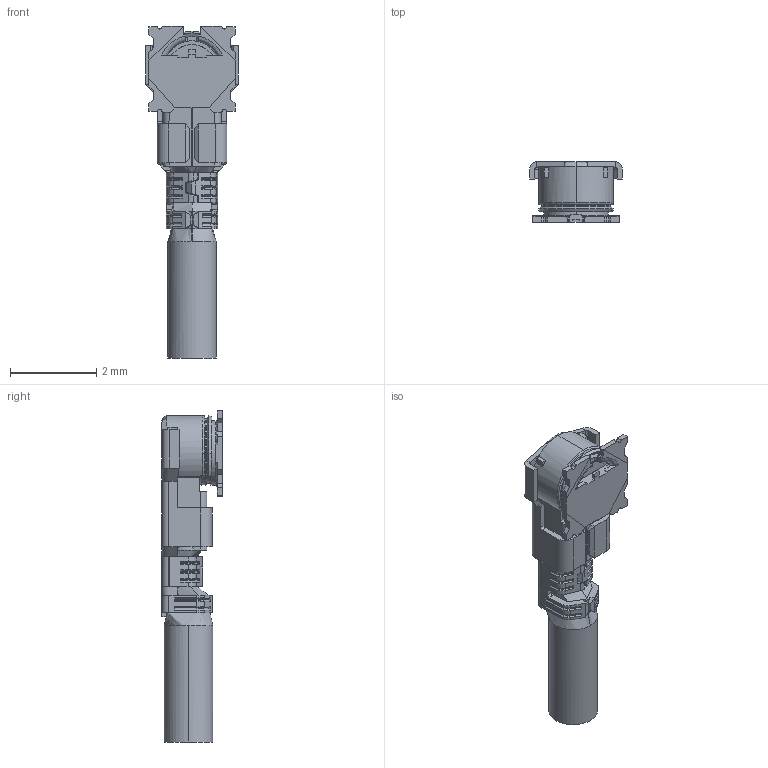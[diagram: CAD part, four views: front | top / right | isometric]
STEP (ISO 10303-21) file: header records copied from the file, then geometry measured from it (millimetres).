
FILE_DESCRIPTION (( 'STEP AP203' ), '1' );
FILE_NAME ('20980-001R-13+20981-001E-02C MATING STEP R3R0 ALL.STEP', '2020-07-15T22:24:46', ( '' ), ( '' ), 'SwSTEP 2.0', 'SolidWorks 2017', '' );
FILE_SCHEMA (( 'CONFIG_CONTROL_DESIGN' ));
Length unit declared in the file: millimetre
Products named in the file (1): 20980-001R-13+20981-001E-02C MATING STEP R3R0 ALL
Bounding box: 2.15 x 1.4 x 7.7 mm (x, y, z)
Volume: 10.2 mm3; surface area: 49.9 mm2
Topology: 1 solids, 1 shells, 527 faces, 1410 edges, 890 vertices
Faces by surface type: plane 302, cylinder 131, cone 37, torus 30, bspline 27
Entity records: 17588 total; most frequent: CARTESIAN_POINT 4477, ORIENTED_EDGE 2820, DIRECTION 2610, EDGE_CURVE 1410, VECTOR 972, LINE 972, VERTEX_POINT 890, AXIS2_PLACEMENT_3D 819
